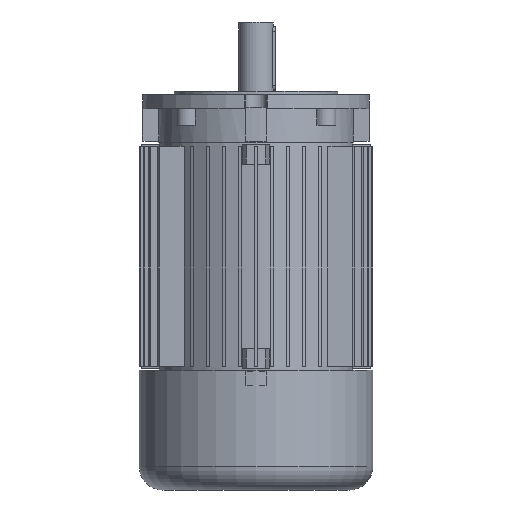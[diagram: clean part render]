
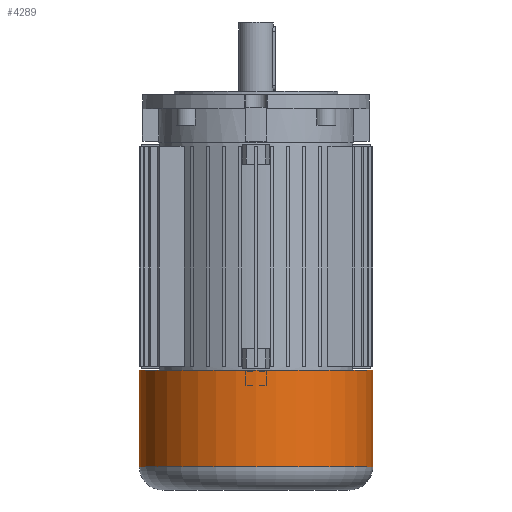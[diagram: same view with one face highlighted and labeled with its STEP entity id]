
A CAD part, front view. The second image highlights one B-rep face of the part: STEP entity #4289.
In plain terms, the highlighted cylindrical face has radius 128.5 mm (diameter 257 mm), a full revolution.
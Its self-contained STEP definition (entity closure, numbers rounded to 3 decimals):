
#592 = CIRCLE ( 'NONE', #11479, 128.5 ) ;
#664 = DIRECTION ( 'NONE',  ( 1., 0., 0. ) ) ;
#2548 = DIRECTION ( 'NONE',  ( 1., 0., 0. ) ) ;
#2709 = EDGE_LOOP ( 'NONE', ( #2830 ) ) ;
#2830 = ORIENTED_EDGE ( 'NONE', *, *, #11392, .F. ) ;
#3288 = DIRECTION ( 'NONE',  ( 1., 0., 0. ) ) ;
#4138 = EDGE_CURVE ( 'NONE', #12365, #12365, #7418, .T. ) ;
#4193 = VERTEX_POINT ( 'NONE', #5287 ) ;
#4235 = DIRECTION ( 'NONE',  ( 0., 0., 1. ) ) ;
#4289 = ADVANCED_FACE ( 'NONE', ( #12920, #10794 ), #8957, .T. ) ;
#4812 = DIRECTION ( 'NONE',  ( 0., 0., 1. ) ) ;
#5287 = CARTESIAN_POINT ( 'NONE',  ( 128.5, 0., -125. ) ) ;
#6041 = CARTESIAN_POINT ( 'NONE',  ( 128.5, 0., -231.3 ) ) ;
#6072 = EDGE_LOOP ( 'NONE', ( #7635 ) ) ;
#6416 = CARTESIAN_POINT ( 'NONE',  ( 0., 0., -125. ) ) ;
#7418 = CIRCLE ( 'NONE', #8263, 128.5 ) ;
#7635 = ORIENTED_EDGE ( 'NONE', *, *, #4138, .T. ) ;
#8263 = AXIS2_PLACEMENT_3D ( 'NONE', #12846, #4812, #2548 ) ;
#8588 = AXIS2_PLACEMENT_3D ( 'NONE', #12987, #8893, #664 ) ;
#8893 = DIRECTION ( 'NONE',  ( 0., 0., 1. ) ) ;
#8957 = CYLINDRICAL_SURFACE ( 'NONE', #8588, 128.5 ) ;
#10794 = FACE_OUTER_BOUND ( 'NONE', #2709, .T. ) ;
#11392 = EDGE_CURVE ( 'NONE', #4193, #4193, #592, .T. ) ;
#11479 = AXIS2_PLACEMENT_3D ( 'NONE', #6416, #4235, #3288 ) ;
#12365 = VERTEX_POINT ( 'NONE', #6041 ) ;
#12846 = CARTESIAN_POINT ( 'NONE',  ( 0., 0., -231.3 ) ) ;
#12920 = FACE_OUTER_BOUND ( 'NONE', #6072, .T. ) ;
#12987 = CARTESIAN_POINT ( 'NONE',  ( 0., 0., -115.868 ) ) ;
